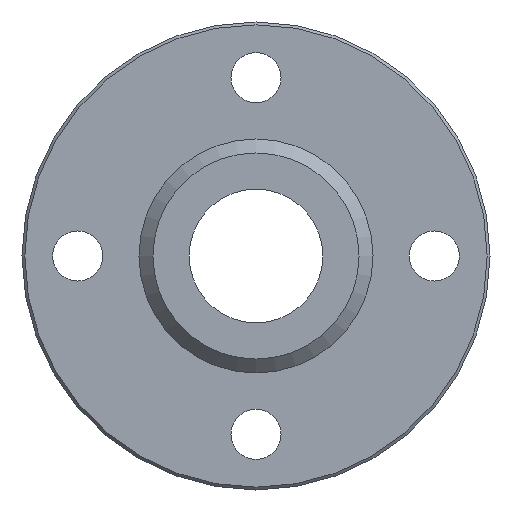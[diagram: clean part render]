
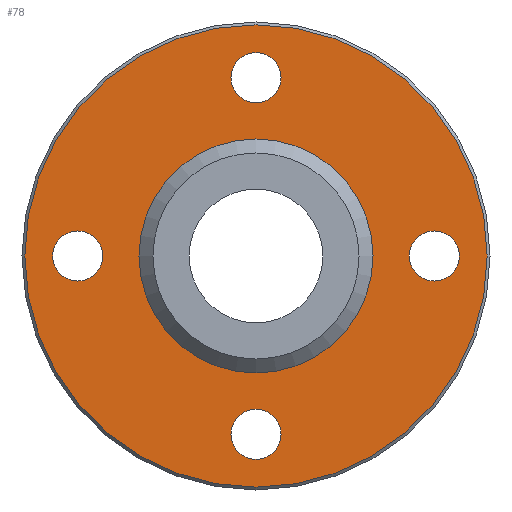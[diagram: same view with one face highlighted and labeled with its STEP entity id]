
A CAD part, left-side view. The second image highlights one B-rep face of the part: STEP entity #78.
In plain terms, the highlighted planar face has unit normal (-1, 0, 0).
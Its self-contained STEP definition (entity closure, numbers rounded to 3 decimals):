
#78=ADVANCED_FACE('',(#109,#110,#111,#112,#113,#114),#115,.F.);
#109=FACE_OUTER_BOUND('',#189,.T.);
#110=FACE_BOUND('',#190,.T.);
#111=FACE_BOUND('',#191,.T.);
#112=FACE_BOUND('',#192,.T.);
#113=FACE_BOUND('',#193,.T.);
#114=FACE_BOUND('',#194,.T.);
#115=PLANE('',#195);
#189=EDGE_LOOP('',(#275));
#190=EDGE_LOOP('',(#276));
#191=EDGE_LOOP('',(#277));
#192=EDGE_LOOP('',(#278));
#193=EDGE_LOOP('',(#279));
#194=EDGE_LOOP('',(#280));
#195=AXIS2_PLACEMENT_3D('',#281,#282,#283);
#275=ORIENTED_EDGE('',*,*,#392,.T.);
#276=ORIENTED_EDGE('',*,*,#393,.T.);
#277=ORIENTED_EDGE('',*,*,#394,.T.);
#278=ORIENTED_EDGE('',*,*,#395,.T.);
#279=ORIENTED_EDGE('',*,*,#391,.T.);
#280=ORIENTED_EDGE('',*,*,#396,.T.);
#281=CARTESIAN_POINT('',(-9.0,20.746,0.0));
#282=DIRECTION('',(1.0,0.0,0.0));
#283=DIRECTION('',(0.0,0.0,-1.0));
#391=EDGE_CURVE('',#422,#422,#423,.T.);
#392=EDGE_CURVE('',#424,#424,#425,.T.);
#393=EDGE_CURVE('',#426,#426,#427,.T.);
#394=EDGE_CURVE('',#428,#428,#429,.T.);
#395=EDGE_CURVE('',#430,#430,#431,.T.);
#396=EDGE_CURVE('',#432,#432,#433,.T.);
#422=VERTEX_POINT('',#478);
#423=CIRCLE('',#479,2.25);
#424=VERTEX_POINT('',#480);
#425=CIRCLE('',#481,20.746);
#426=VERTEX_POINT('',#482);
#427=CIRCLE('',#483,2.25);
#428=VERTEX_POINT('',#484);
#429=CIRCLE('',#485,2.25);
#430=VERTEX_POINT('',#486);
#431=CIRCLE('',#487,2.25);
#432=VERTEX_POINT('',#488);
#433=CIRCLE('',#489,10.5);
#478=CARTESIAN_POINT('',(-9.0,-16.0,-2.25));
#479=AXIS2_PLACEMENT_3D('',#537,#538,#539);
#480=CARTESIAN_POINT('',(-9.0,0.0,20.746));
#481=AXIS2_PLACEMENT_3D('',#540,#541,#542);
#482=CARTESIAN_POINT('',(-9.0,0.0,13.75));
#483=AXIS2_PLACEMENT_3D('',#543,#544,#545);
#484=CARTESIAN_POINT('',(-9.0,16.0,-2.25));
#485=AXIS2_PLACEMENT_3D('',#546,#547,#548);
#486=CARTESIAN_POINT('',(-9.0,0.0,-18.25));
#487=AXIS2_PLACEMENT_3D('',#549,#550,#551);
#488=CARTESIAN_POINT('',(-9.0,0.,-10.5));
#489=AXIS2_PLACEMENT_3D('',#552,#553,#554);
#537=CARTESIAN_POINT('',(-9.0,-16.0,0.0));
#538=DIRECTION('',(1.0,0.0,0.0));
#539=DIRECTION('',(0.0,0.0,-1.0));
#540=CARTESIAN_POINT('',(-9.0,0.0,0.0));
#541=DIRECTION('',(-1.0,0.0,0.0));
#542=DIRECTION('',(0.0,0.0,1.0));
#543=CARTESIAN_POINT('',(-9.0,0.0,16.0));
#544=DIRECTION('',(1.0,0.0,0.0));
#545=DIRECTION('',(0.0,0.0,-1.0));
#546=CARTESIAN_POINT('',(-9.0,16.0,0.0));
#547=DIRECTION('',(1.0,0.0,0.0));
#548=DIRECTION('',(0.0,0.0,-1.0));
#549=CARTESIAN_POINT('',(-9.0,0.0,-16.0));
#550=DIRECTION('',(1.0,0.0,0.0));
#551=DIRECTION('',(0.0,0.0,-1.0));
#552=CARTESIAN_POINT('',(-9.0,0.,0.));
#553=DIRECTION('',(1.0,0.0,0.0));
#554=DIRECTION('',(0.0,0.0,-1.0));
